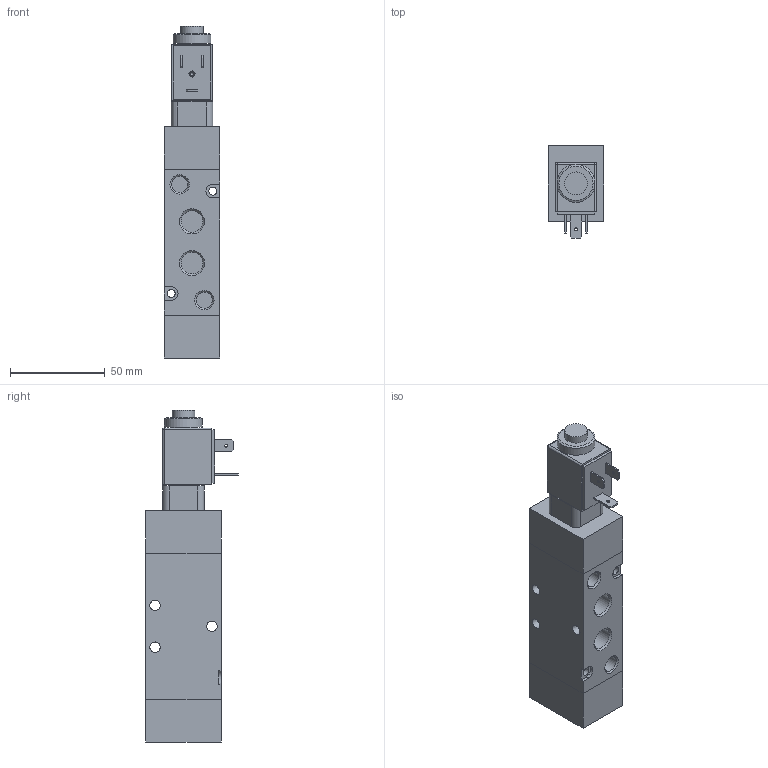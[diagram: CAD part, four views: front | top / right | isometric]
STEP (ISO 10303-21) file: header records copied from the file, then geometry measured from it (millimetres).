
FILE_DESCRIPTION(/* description */ (''),/* implementation_level */ '2;1');
FILE_NAME(/* name */ 'I:\Area Tecnica\Disegni\VARIE-3D\Componenti\T400\T424\T424_52_0_12_E_B#.stp',/* time_stamp */ '2015-09-23T13:50:55+02:00',/* author */ ('maniean1'),/* organization */ ('Pneumax S.p.A.'),/* preprocessor_version */ 'ST-DEVELOPER v15.2',/* originating_system */ 'Autodesk Inventor 2014',/* authorisation */ '');
FILE_SCHEMA (('AUTOMOTIVE_DESIGN { 1 0 10303 214 3 1 1 }'));
Length unit declared in the file: millimetre
Products named in the file (3): T424_52_0_12_E_M2; MB; T424_52_0_12_E_B#
Bounding box: 29.5 x 49 x 175 mm (x, y, z)
Volume: 161116.7 mm3; surface area: 37159.2 mm2
Topology: 5 solids, 5 shells, 131 faces, 285 edges, 184 vertices
Faces by surface type: plane 80, cylinder 39, cone 10, sphere 2
Full cylindrical faces by diameter (mm): 1.5 x2, 1.6 x1, 2.156 x1, 4.25 x2, 5.5 x3, 7.4 x1, 8 x1, 8.2 x2, 8.566 x2, 9.8 x1, 10.1 x1, 10.2 x1, 11.445 x5, 12 x1, 13 x1, 13.5 x1, 16.2 x1, 20 x1
Entity records: 3544 total; most frequent: DIRECTION 601, CARTESIAN_POINT 559, ORIENTED_EDGE 484, EDGE_CURVE 242, AXIS2_PLACEMENT_3D 223, EDGE_LOOP 209, VERTEX_POINT 181, LINE 155
